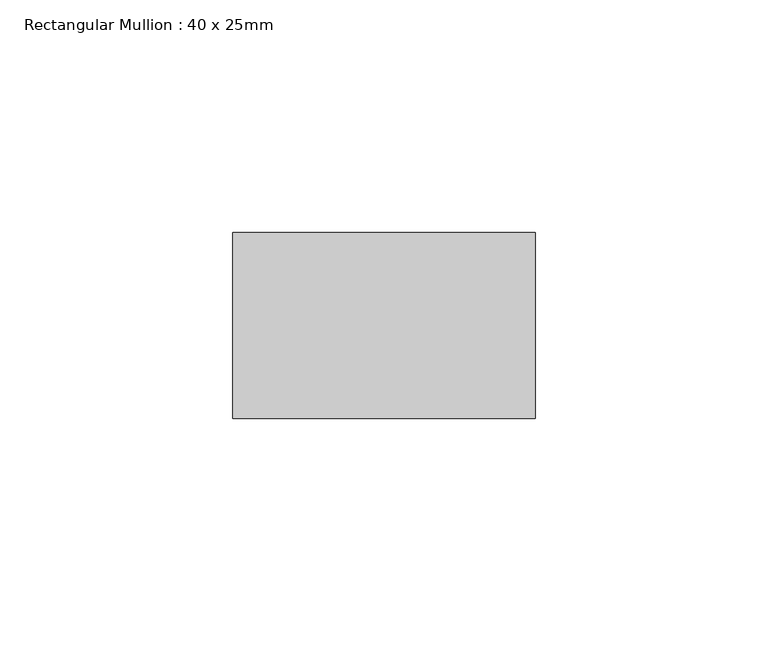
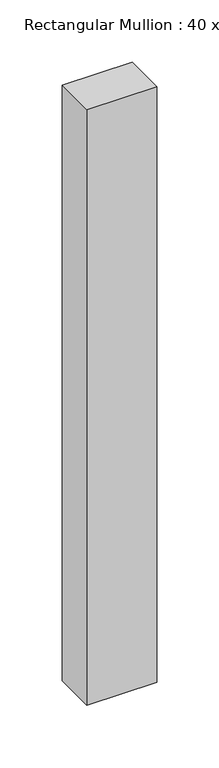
"""IFC4 building model written with IfcOpenShell, lengths in millimetres: member geometry, Rectangular Mullion : 40 x 25mm."""

import ifcopenshell
import ifcopenshell.guid

model = None  # the IFC model being written
_history = None  # IfcOwnerHistory: only IFC2X3 demands one
_inside = {}  # id of a spatial element -> (the spatial element, [elements in it])
_under = {}  # id of a project, library or spatial element -> (it, [spatial elements below it])
_declared = {}  # id of a project -> (the project, [libraries it declares])
_typed = {}  # id of a type object -> (the type object, [elements of that type])
_made_of = {}  # id of a material, layer set ... -> (it, [elements and type objects made of it])


def new_model(schema):
    """Start an empty IFC model of exactly this schema.

    Asked for "IFC4X3", IfcOpenShell would pick the latest addendum, in which some entities
    have other attributes; the version numbers below select the first issue.
    IFC2X3 requires an IfcOwnerHistory on every rooted entity: one is made here for all.
    """
    global model, _history
    if schema == "IFC4X3":
        model = ifcopenshell.file(schema_version=(4, 3, 0, 0))
    else:
        model = ifcopenshell.file(schema=schema)
    _inside.clear()
    _under.clear()
    _declared.clear()
    _typed.clear()
    _made_of.clear()
    _history = None
    if model.schema == "IFC2X3":
        org = make("IfcOrganization", Name="unknown")
        user = make(
            "IfcPersonAndOrganization",
            ThePerson=make("IfcPerson", FamilyName="unknown"),
            TheOrganization=org,
        )
        app = make(
            "IfcApplication",
            ApplicationDeveloper=org,
            Version="unknown",
            ApplicationFullName="unknown",
            ApplicationIdentifier="unknown",
        )
        _history = make(
            "IfcOwnerHistory",
            OwningUser=user,
            OwningApplication=app,
            ChangeAction="ADDED",
            CreationDate=0,
        )
    return model


def make(cls, **values):
    """One entity of the class cls with the attributes given. An attribute that is None is left unset."""
    return model.create_entity(
        cls, **{name: value for name, value in values.items() if value is not None}
    )


def rooted(cls, **values):
    """An entity with a GlobalId (a new one), such as an element, a storey or a relation."""
    return make(cls, GlobalId=ifcopenshell.guid.new(), OwnerHistory=_history, **values)


def si_unit(unit_type, name, prefix=None):
    """IfcSIUnit, for example si_unit("LENGTHUNIT", "METRE", prefix="MILLI")."""
    return make("IfcSIUnit", UnitType=unit_type, Prefix=prefix, Name=name)


def assignment(units):
    """IfcUnitAssignment: the units of a project."""
    return None if units is None else make("IfcUnitAssignment", Units=units)


def point(xyz):
    """IfcCartesianPoint."""
    return None if xyz is None else make("IfcCartesianPoint", Coordinates=xyz)


def direction(xyz):
    """IfcDirection."""
    return None if xyz is None else make("IfcDirection", DirectionRatios=xyz)


def frame(location, z_axis=None, x_axis=None):
    """IfcAxis2Placement3D, a coordinate frame: its origin and axes. An axis left out is left unset."""
    return make(
        "IfcAxis2Placement3D",
        Location=point(location),
        Axis=direction(z_axis),
        RefDirection=direction(x_axis),
    )


def origin():
    """The frame at (0, 0, 0) with its axes left unset."""
    return frame((0.0, 0.0, 0.0))


def place(relative_to, where):
    """IfcLocalPlacement: puts the frame where relative to a parent placement (None: the world)."""
    return make(
        "IfcLocalPlacement", PlacementRelTo=relative_to, RelativePlacement=where
    )


def context(
    kind, dimensions, precision=None, world=None, true_north=None, identifier=None
):
    """IfcGeometricRepresentationContext, for example the 3D "Model" context."""
    return make(
        "IfcGeometricRepresentationContext",
        ContextIdentifier=identifier,
        ContextType=kind,
        CoordinateSpaceDimension=dimensions,
        Precision=precision,
        WorldCoordinateSystem=world,
        TrueNorth=true_north,
    )


def project(units=None, contexts=None):
    """IfcProject with its units and contexts."""
    return rooted(
        "IfcProject",
        Name="project",
        RepresentationContexts=contexts,
        UnitsInContext=assignment(units),
    )


def spatial(cls, under=None, at=None, **own):
    """A site, building, storey or space (cls), placed at a placement, below another one or the project."""
    s = rooted(cls, ObjectPlacement=at, **own)
    if under is not None:
        _under.setdefault(under.id(), (under, []))[1].append(s)
    return s


def polyline(points):
    """IfcPolyline through the points."""
    return make("IfcPolyline", Points=[point(p) for p in points])


def outline(outer, holes=None, kind="AREA"):
    """IfcArbitraryClosedProfileDef: a profile drawn as a closed curve; with holes, ...WithVoids."""
    if holes is None:
        return make("IfcArbitraryClosedProfileDef", ProfileType=kind, OuterCurve=outer)
    return make(
        "IfcArbitraryProfileDefWithVoids",
        ProfileType=kind,
        OuterCurve=outer,
        InnerCurves=holes,
    )


def extrude(swept, where, along, depth):
    """IfcExtrudedAreaSolid: the profile swept, set in the frame where, extruded along a direction by depth."""
    return make(
        "IfcExtrudedAreaSolid",
        SweptArea=swept,
        Position=where,
        ExtrudedDirection=direction(along),
        Depth=depth,
    )


def shape(context_of_items, identifier, shape_type, items):
    """IfcShapeRepresentation: the items that make up one representation, for example the "Body"."""
    return make(
        "IfcShapeRepresentation",
        ContextOfItems=context_of_items,
        RepresentationIdentifier=identifier,
        RepresentationType=shape_type,
        Items=items,
    )


def source(mapping_origin, context_of_items, identifier, shape_type, items):
    """IfcRepresentationMap: a shape defined once, which mapped items show again and again."""
    return make(
        "IfcRepresentationMap",
        MappingOrigin=mapping_origin,
        MappedRepresentation=shape(context_of_items, identifier, shape_type, items),
    )


def transform(
    local_origin,
    x_axis=None,
    y_axis=None,
    z_axis=None,
    scale=None,
    scale2=None,
    scale3=None,
    uniform=True,
):
    """IfcCartesianTransformationOperator3D, or its non-uniform kind. x_axis, y_axis, z_axis: its Axis1, 2, 3."""
    if uniform:
        return make(
            "IfcCartesianTransformationOperator3D",
            Axis1=direction(x_axis),
            Axis2=direction(y_axis),
            LocalOrigin=point(local_origin),
            Scale=scale,
            Axis3=direction(z_axis),
        )
    return make(
        "IfcCartesianTransformationOperator3DnonUniform",
        Axis1=direction(x_axis),
        Axis2=direction(y_axis),
        LocalOrigin=point(local_origin),
        Scale=scale,
        Axis3=direction(z_axis),
        Scale2=scale2,
        Scale3=scale3,
    )


def mapped(mapping_source, mapping_target):
    """IfcMappedItem: shows the shape of a source again, moved by a transform."""
    return make(
        "IfcMappedItem", MappingSource=mapping_source, MappingTarget=mapping_target
    )


def made_of(thing, what):
    """Note that an element or type object is made of a material, layer set ...; save() writes the relation."""
    if what is not None:
        _made_of.setdefault(what.id(), (what, []))[1].append(thing)
    return thing


def element(
    cls,
    number,
    at=None,
    inside=None,
    cuts=None,
    type_object=None,
    material=None,
    context=None,
    identifier="Body",
    shape_type=None,
    held_by="IfcProductDefinitionShape",
    body=None,
    shapes=None,
    **own,
):
    """One element of the class cls, such as IfcWall. Its Tag is "e" and its number.

    at: its placement. inside: the storey or other place that contains it. cuts: it is an
    opening in that element (IfcRelVoidsElement). A single representation is given by context,
    identifier, shape_type and body (its items); several are given by shapes. held_by: the class
    of the entity that holds the representations. save() writes the other relations.
    """
    e = rooted(cls, Tag="e%d" % number, ObjectPlacement=at, **own)
    if body is not None:
        shapes = [shape(context, identifier, shape_type, body)]
    if shapes is not None:
        e.Representation = make(held_by, Representations=shapes)
    if inside is not None:
        _inside.setdefault(inside.id(), (inside, []))[1].append(e)
    if cuts is not None:
        rooted(
            "IfcRelVoidsElement", RelatingBuildingElement=cuts, RelatedOpeningElement=e
        )
    if type_object is not None:
        _typed.setdefault(type_object.id(), (type_object, []))[1].append(e)
    return made_of(e, material)


def aggregate(whole, parts):
    """IfcRelAggregates: a whole, such as a stair, and the parts it consists of."""
    return rooted("IfcRelAggregates", RelatingObject=whole, RelatedObjects=parts)


def save(model, path):
    """Write the relations noted so far, then the file.

    IfcRelAggregates (storeys below a building ...), IfcRelContainedInSpatialStructure (elements
    in a storey), IfcRelDefinesByType, IfcRelAssociatesMaterial and IfcRelDeclares: one each for
    every whole, place, type object, material and project.
    """
    for whole, parts in _under.values():
        aggregate(whole, parts)
    for where, things in _inside.values():
        rooted(
            "IfcRelContainedInSpatialStructure",
            RelatedElements=things,
            RelatingStructure=where,
        )
    for kind, things in _typed.values():
        rooted("IfcRelDefinesByType", RelatedObjects=things, RelatingType=kind)
    for what, things in _made_of.values():
        rooted("IfcRelAssociatesMaterial", RelatedObjects=things, RelatingMaterial=what)
    for by, libraries in _declared.values():
        rooted("IfcRelDeclares", RelatingContext=by, RelatedDefinitions=libraries)
    model.write(path)


def rectangular_mullion_40_x_25mm_be69f2f0(model_context):
    return source(origin(), model_context, "Body", "SweptSolid", [
        extrude(outline(polyline([(40.0, -20.0), (40.0, -60.0), (-25.0, -60.0), (-25.0, -20.0), (40.0, -20.0)])), frame((0.0, 0.0, -585.76357), z_axis=(0.0, 0.0, 1.0), x_axis=(1.0, 0.0, 0.0)), (0.0, 0.0, 1.0), 585.76357),
    ])


if __name__ == "__main__":
    model = new_model("IFC4")
    model_context = context("Model", 3, world=origin())
    ifc_project = project(units=[si_unit("LENGTHUNIT", "METRE", prefix="MILLI")], contexts=[model_context])
    site = spatial("IfcSite", under=ifc_project)
    building = spatial("IfcBuilding", under=site)
    placement = place(None, origin())
    rectangular_mullion_40_x_25mm_shape = rectangular_mullion_40_x_25mm_be69f2f0(model_context)
    element("IfcMember", 1, ObjectType="Rectangular Mullion : 40 x 25mm", at=placement, inside=building, context=model_context, shape_type="MappedRepresentation", body=[
        mapped(rectangular_mullion_40_x_25mm_shape, transform((0.0, 0.0, 0.0), x_axis=(1.0, 0.0, 0.0), y_axis=(0.0, 1.0, 0.0), z_axis=(0.0, 0.0, 1.0))),
    ])
    save(model, "model.ifc")
